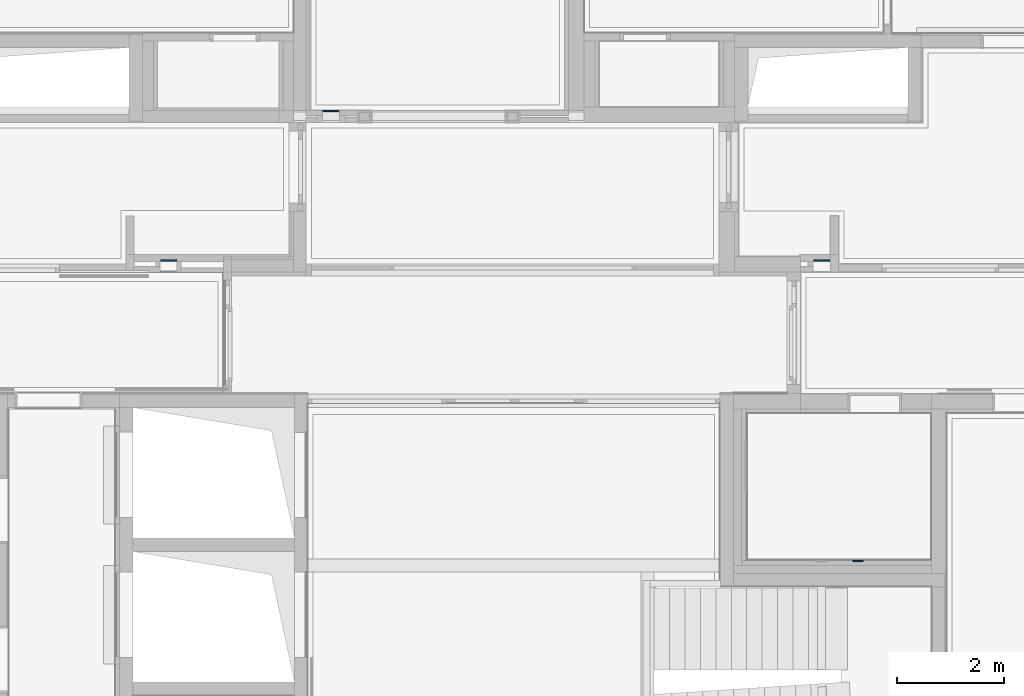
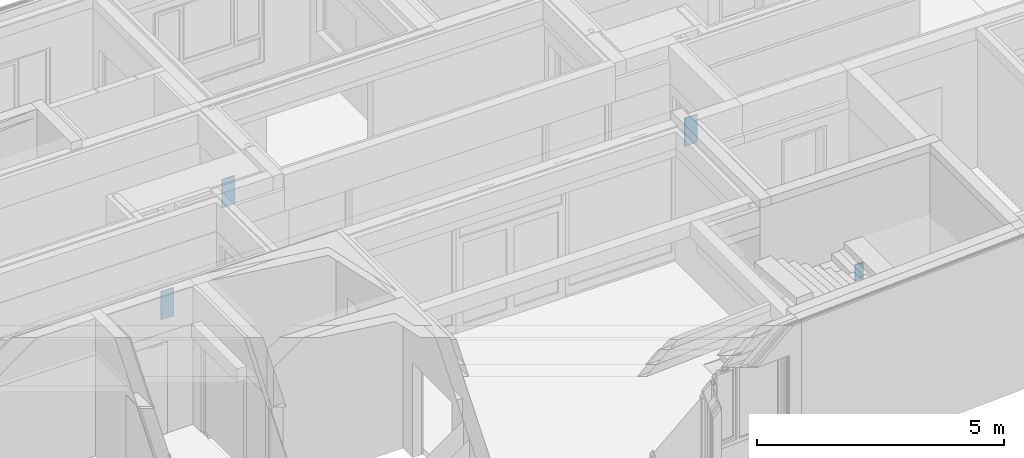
# One storey, part 149 of 222: 4 walls.
"""IFC4 building model written with IfcOpenShell, lengths in metres."""

from ifc_helpers import new_model, entity, si_unit, converted_unit, derived_unit, frame, origin, place, context, subcontext, project, spatial, faceted_brep, element, save


model = new_model("IFC4")

# Units and contexts
model_context = context("Model", 3, precision=1e-05, world=origin())
body_context = subcontext(model_context, "Body", "Model", "MODEL_VIEW")
ifc_project = project(units=[si_unit("LENGTHUNIT", "METRE"), si_unit("AREAUNIT", "SQUARE_METRE"), si_unit("VOLUMEUNIT", "CUBIC_METRE"), si_unit("MASSUNIT", "GRAM", prefix="KILO"), converted_unit("PLANEANGLEUNIT", "DEGREE", entity("IfcPlaneAngleMeasure", 0.0174532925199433), si_unit("PLANEANGLEUNIT", "RADIAN"), dimensions=[0, 0, 0, 0, 0, 0, 0]), derived_unit("THERMALTRANSMITTANCEUNIT", [(si_unit("POWERUNIT", "WATT"), 1), (si_unit("THERMODYNAMICTEMPERATUREUNIT", "KELVIN"), -1), (si_unit("LENGTHUNIT", "METRE"), -2)]), derived_unit("VOLUMETRICFLOWRATEUNIT", [(si_unit("LENGTHUNIT", "METRE"), 3), (converted_unit("TIMEUNIT", "hour", entity("IfcTimeMeasure", 3600.0), si_unit("TIMEUNIT", "SECOND"), dimensions=[0, 0, 1, 0, 0, 0, 0]), -1), (si_unit("LENGTHUNIT", "METRE"), -1)])], contexts=[model_context])

# Site, building, storey
site_placement = place(None, origin())
site = spatial("IfcSite", under=ifc_project, at=site_placement, Name="Psychiatrie Neubau Wunstorf", CompositionType="ELEMENT")
building_placement = place(site_placement, origin())
building = spatial("IfcBuilding", under=site, at=building_placement, Name="Neubau H2 Stationsgebäude", CompositionType="ELEMENT")
storey_placement = place(building_placement, frame((0.0, 0.0, 3.6)))
storey = spatial("IfcBuildingStorey", under=building, at=storey_placement, Name="H2 Ebene +1", CompositionType="ELEMENT", Elevation=3.6)

# Walls
wall_placement = place(storey_placement, frame((60.7679718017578, -2.61349131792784, 0.58)))
element("IfcWall", 1, at=wall_placement, inside=storey, Name="WV 1.1", context=body_context, shape_type="Brep", body=[
    faceted_brep([(0.2, 0.0, 0.0), (0.2, 0.025, 0.0), (0.0, 0.025, 0.0), (0.0, 0.0, 0.0), (0.2, 0.025, 0.4), (0.2, 0.0, 0.4), (0.0, 0.0, 0.4), (0.0, 0.025, 0.4)], [[[0, 1, 2, 3]], [[4, 5, 6, 7]], [[1, 0, 5, 4]], [[2, 1, 4, 7]], [[3, 2, 7, 6]], [[0, 3, 6, 5]]], orient=[[False], [False], [False], [False], [False], [False]]),
])
for number, where, name in (
    (2, (50.8335650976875, 5.82449969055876, 0.75), "WV 1.1"),
    (3, (47.7888707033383, 3.01749969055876, 0.75), "WV 1.1"),
    (4, (60.0400000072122, 3.01756972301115, 0.75), "WV 1.1"),
):
    element("IfcWall", number, at=place(storey_placement, frame(where)), inside=storey, Name=name, context=body_context, shape_type="Brep", body=[
        faceted_brep([(0.3, 0.0, 0.0), (0.3, 0.025, 0.0), (0.0, 0.025, 0.0), (0.0, 0.0, 0.0), (0.3, 0.025, 0.7), (0.3, 0.0, 0.7), (0.0, 0.0, 0.7), (0.0, 0.025, 0.7)], [[[0, 1, 2, 3]], [[4, 5, 6, 7]], [[1, 0, 5, 4]], [[2, 1, 4, 7]], [[3, 2, 7, 6]], [[0, 3, 6, 5]]], orient=[[False], [False], [False], [False], [False], [False]]),
    ])

save(model, "model.ifc")
